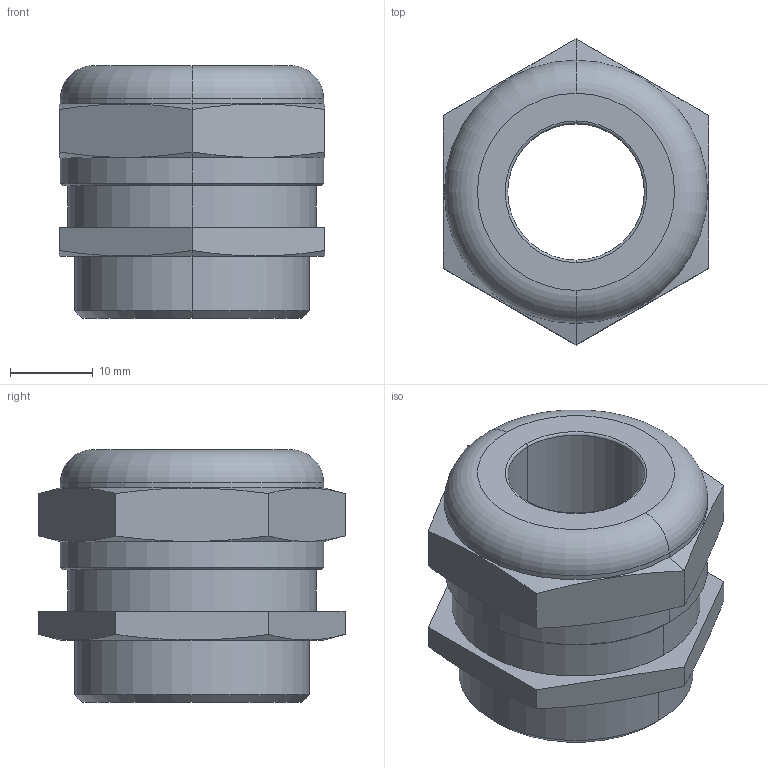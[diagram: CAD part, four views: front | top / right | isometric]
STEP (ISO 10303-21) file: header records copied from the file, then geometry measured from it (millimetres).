
FILE_DESCRIPTION (( 'STEP AP203' ), '1' );
FILE_NAME ('102116.STEP', '2006-10-05T11:19:52', ( ' ' ), ( '' ), 'SwSTEP 2.0', 'SolidWorks 2005278', '' );
FILE_SCHEMA (( 'CONFIG_CONTROL_DESIGN' ));
Length unit declared in the file: millimetre
Products named in the file (1): 102116
Bounding box: 32 x 36.95 x 30.5 mm (x, y, z)
Volume: 16530.7 mm3; surface area: 6009.9 mm2
Topology: 1 solids, 1 shells, 78 faces, 192 edges, 122 vertices
Faces by surface type: plane 54, cone 10, cylinder 10, torus 4
Entity records: 2461 total; most frequent: CARTESIAN_POINT 543, ORIENTED_EDGE 384, DIRECTION 366, EDGE_CURVE 192, LINE 140, VECTOR 140, VERTEX_POINT 122, AXIS2_PLACEMENT_3D 113
